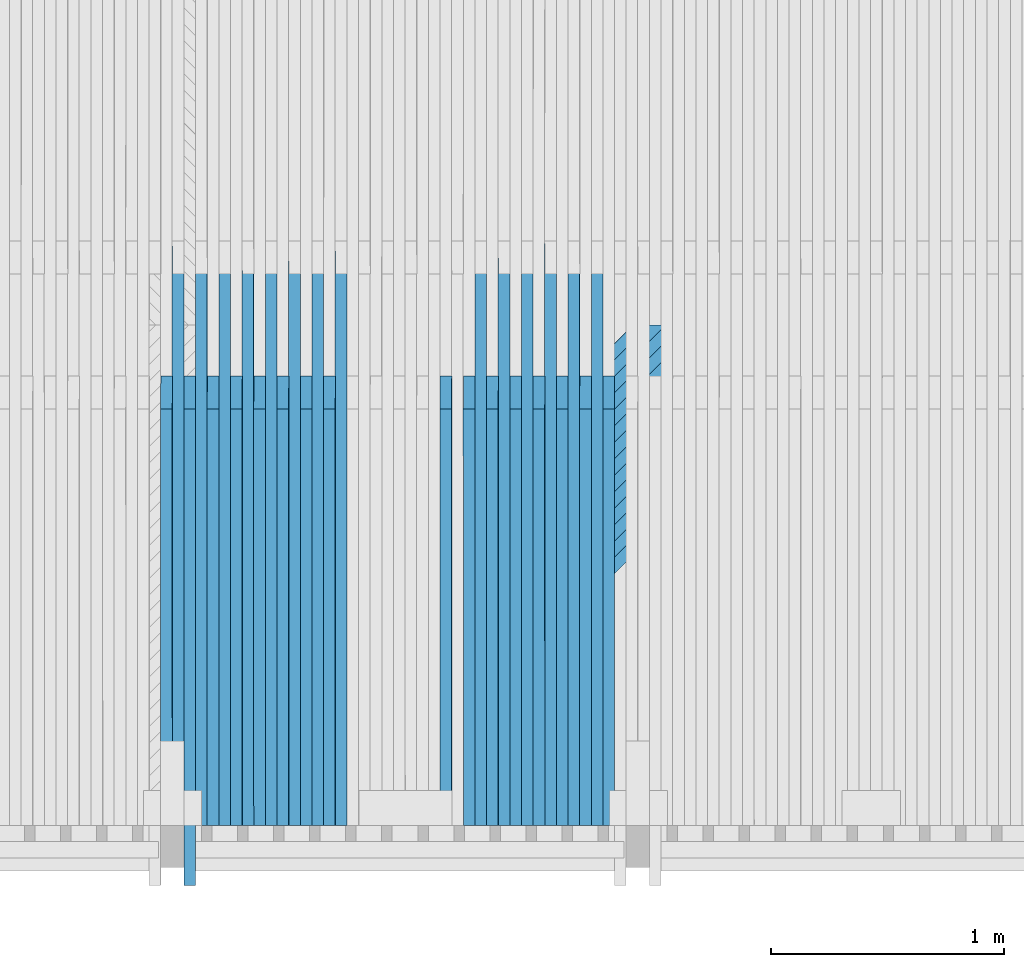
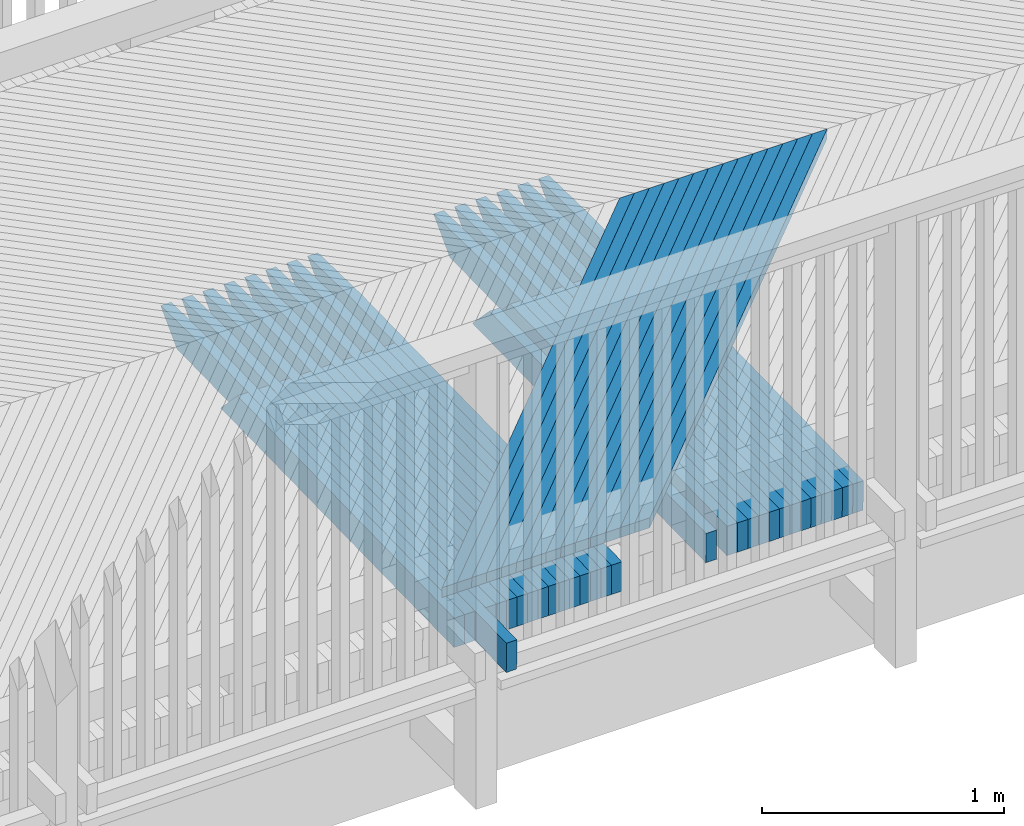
# One storey, part 22 of 52: 44 beams.
"""IFC2X3 building model written with IfcOpenShell, lengths in millimetres."""

from ifc_helpers import new_model, si_unit, frame, origin_with_axes, place, context, subcontext, project, spatial, faceted_brep, material, type_object, element, save


model = new_model("IFC2X3")

# Units and contexts
model_context = context("Model", 3, precision=1e-05, world=origin_with_axes())
body_context = subcontext(model_context, "Body", "Model", "MODEL_VIEW")
ifc_project = project(units=[si_unit("LENGTHUNIT", "METRE", prefix="MILLI"), si_unit("AREAUNIT", "SQUARE_METRE"), si_unit("VOLUMEUNIT", "CUBIC_METRE"), si_unit("MASSUNIT", "GRAM", prefix="KILO"), si_unit("TIMEUNIT", "SECOND"), si_unit("PLANEANGLEUNIT", "RADIAN"), si_unit("SOLIDANGLEUNIT", "STERADIAN"), si_unit("THERMODYNAMICTEMPERATUREUNIT", "DEGREE_CELSIUS"), si_unit("LUMINOUSINTENSITYUNIT", "LUMEN")], contexts=[model_context])

# Site, building, storey
site_placement = place(None, origin_with_axes())
site = spatial("IfcSite", under=ifc_project, at=site_placement, Name="Undefined", CompositionType="ELEMENT")
building_placement = place(site_placement, origin_with_axes())
building = spatial("IfcBuilding", under=site, at=building_placement, Name="Undefined", CompositionType="ELEMENT")
storey_placement = place(building_placement, origin_with_axes())
storey = spatial("IfcBuildingStorey", under=building, at=storey_placement, Name="Undefined", CompositionType="ELEMENT", Elevation=0.0)

# Beams
ifc_material = material(Name="TIMBER/Timber_Undefined")
beam_type_1 = type_object("IfcBeamType", Name="50*50", PredefinedType="NOTDEFINED")
for number, where, z_axis, x_axis, name in (
    (1, (6933.49514567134, 2364.50010032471, 3235.17752037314), (0.707136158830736, -0.706981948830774, -0.0116179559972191), (-0.707068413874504, -0.706948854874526, -0.016660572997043), "BEAM"),
    (2, (6862.77103065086, 2364.50010032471, 3235.04809435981), (0.707137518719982, -0.706981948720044, -0.0115348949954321), (-0.707066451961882, -0.706948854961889, -0.0167436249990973), "BEAM"),
    (3, (6792.04693132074, 2364.50010032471, 3234.91036104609), (0.707138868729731, -0.706981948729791, -0.0114518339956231), (-0.707064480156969, -0.706948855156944, -0.0168266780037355), "BEAM"),
    (4, (6721.32284865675, 2364.50010032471, 3234.76432043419), (0.707140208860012, -0.706981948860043, -0.0113687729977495), (-0.707062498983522, -0.706948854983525, -0.0169097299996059), "BEAM"),
    (5, (6650.59878363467, 2364.50010032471, 3234.60997252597), (0.707141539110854, -0.706981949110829, -0.0112857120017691), (-0.707060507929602, -0.706948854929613, -0.0169927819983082), "BEAM"),
    (6, (6579.8747372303, 2364.50010032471, 3234.44731732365), (0.707142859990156, -0.706981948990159, -0.0112026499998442), (-0.707058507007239, -0.706948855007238, -0.0170758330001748), "BEAM"),
    (7, (6509.1507104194, 2364.50010032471, 3234.27635482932), (0.707144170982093, -0.706981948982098, -0.0111195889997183), (-0.707056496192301, -0.706948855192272, -0.0171588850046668), "BEAM"),
    (8, (6438.42670417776, 2364.50010032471, 3234.09708504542), (0.707145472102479, -0.706981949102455, -0.0110365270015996), (-0.707054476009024, -0.706948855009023, -0.01724193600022), "BEAM"),
    (9, (6367.70271948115, 2364.50010032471, 3233.9095079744), (0.707146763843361, -0.706981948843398, -0.0109534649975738), (-0.707052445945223, -0.706948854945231, -0.0173249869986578), "BEAM"),
    (10, (6296.97875730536, 2364.50010032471, 3233.71362361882), (0.707148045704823, -0.706981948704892, -0.0108704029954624), (-0.707050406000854, -0.706948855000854, -0.0174080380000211), "BEAM"),
    (11, (6226.25481862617, 2364.50010032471, 3233.5094319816), (0.70714931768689, -0.706981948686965, -0.0107873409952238), (-0.707048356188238, -0.706948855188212, -0.0174910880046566), "BEAM"),
    (12, (6155.53090441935, 2364.50010032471, 3233.29693306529), (0.707150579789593, -0.706981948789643, -0.0107042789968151), (-0.707046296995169, -0.706948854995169, -0.01757413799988), "BEAM"),
    (13, (6084.80701566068, 2364.50010032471, 3233.07612687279), (0.707151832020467, -0.706981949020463, -0.0106212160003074), (-0.70704422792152, -0.706948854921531, -0.0176571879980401), "BEAM"),
    (14, (6014.08315332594, 2364.50010032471, 3232.84701340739), (0.707153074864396, -0.706981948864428, -0.010538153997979), (-0.707042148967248, -0.706948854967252, -0.0177402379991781), "BEAM"),
):
    element("IfcBeam", number, at=place(storey_placement, frame(where, z_axis=z_axis, x_axis=x_axis)), inside=storey, type_object=beam_type_1, material=ifc_material, Name=name, ObjectType="50*50", context=body_context, shape_type="Brep", body=[
        faceted_brep([(24.894245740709, 25.0, -25.0), (-25.0086637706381, 24.9999999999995, 24.9999999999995), (2804.3406783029, 25.0000000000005, 25.0000000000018), (2854.34301907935, 25.0, -24.9999999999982), (-26.4222658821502, -25.0, 24.9999999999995), (2802.92643296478, -25.0, 25.0000000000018), (23.4806436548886, -25.0, -25.0), (2852.92877373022, -25.0, -24.9999999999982)], [[[0, 1, 2, 3]], [[1, 4, 5, 2]], [[4, 6, 7, 5]], [[6, 0, 3, 7]], [[5, 7, 3, 2]], [[6, 4, 1, 0]]]),
    ])
beam_type_2 = type_object("IfcBeamType", Name="150*50", PredefinedType="NOTDEFINED")
for number, where, z_axis, x_axis, name in (
    (15, (5875.95475998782, 216.50460761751, 3089.40059139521), (-0.00361017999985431, -0.0199960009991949, 0.999793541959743), (-7.22040000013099e-05, 0.999800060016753, 0.019995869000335), "BEAM"),
    (16, (5775.93537890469, 216.50460761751, 3089.0393605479), (-0.00377630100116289, -0.0199960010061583, 0.999792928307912), (-7.55270000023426e-05, 0.999800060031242, 0.0199958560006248), "BEAM"),
):
    element("IfcBeam", number, at=place(storey_placement, frame(where, z_axis=z_axis, x_axis=x_axis)), inside=storey, type_object=beam_type_2, material=ifc_material, Name=name, ObjectType="150*50", context=body_context, shape_type="Brep", body=[
        faceted_brep([(-1.67788130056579e-07, -24.9999999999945, -74.9999999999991), (1.67786311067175e-07, -24.9999999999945, 75.0000000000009), (1.67786311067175e-07, 25.0000000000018, 75.0), (-1.67787220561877e-07, 25.0000000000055, -75.0), (1928.42646353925, -25.0, -75.0), (1789.96936433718, -25.0000000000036, 74.9999999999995), (1789.96936408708, 24.9999999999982, 75.0000000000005), (1928.42646328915, 24.9999999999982, -74.9999999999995)], [[[0, 1, 2, 3]], [[1, 0, 4, 5]], [[2, 1, 5, 6]], [[3, 2, 6, 7]], [[0, 3, 7, 4]], [[7, 6, 5, 4]]]),
    ])
beam_1_placement = place(storey_placement, frame((5825.95508575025, 216.504607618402, 3089.21997974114), z_axis=(-0.00361017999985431, -0.0199960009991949, 0.999793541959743), x_axis=(-7.22040000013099e-05, 0.999800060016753, 0.019995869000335)))
element("IfcBeam", 17, at=beam_1_placement, inside=storey, type_object=beam_type_2, material=ifc_material, Name="BEAM", ObjectType="150*50", context=body_context, shape_type="Brep", body=[
    faceted_brep([(-1.67788130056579e-07, -24.9999999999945, -74.9999999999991), (1.67786311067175e-07, -24.9999999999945, 75.0000000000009), (1.67786311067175e-07, 25.0000000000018, 75.0), (-1.67787220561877e-07, 25.0000000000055, -75.0), (2375.00494422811, 25.0000000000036, -74.9999999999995), (2375.0049444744, -24.9999999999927, -74.9999999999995), (2510.5924871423, -24.9999999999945, 60.5875430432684), (2150.42514405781, -24.9999999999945, 75.0000000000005), (2150.42515052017, 25.0000000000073, 75.0), (2510.59248715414, 25.0000000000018, 60.5875433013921)], [[[0, 1, 2, 3]], [[0, 3, 4, 5]], [[1, 0, 5, 6, 7]], [[2, 1, 7, 8]], [[4, 3, 2, 8, 9]], [[5, 4, 9, 6]], [[6, 9, 8, 7]]]),
])
beam_2_placement = place(storey_placement, frame((5675.91605922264, 216.50460761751, 3088.66151095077), z_axis=(-0.00394242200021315, -0.0199960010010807, 0.999792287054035), x_axis=(-7.88490000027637e-05, 0.999800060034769, 0.0199958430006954)))
element("IfcBeam", 18, at=beam_2_placement, inside=storey, type_object=beam_type_2, material=ifc_material, Name="BEAM", ObjectType="150*50", context=body_context, shape_type="Brep", body=[
    faceted_brep([(-1.67788130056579e-07, -24.9999999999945, -74.9999999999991), (1.67786311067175e-07, -24.9999999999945, 75.0000000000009), (1.67786311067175e-07, 25.0000000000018, 75.0), (-1.67787220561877e-07, 25.0000000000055, -75.0), (1928.42646353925, -25.0, -75.0), (1789.96936433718, -25.0000000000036, 74.9999999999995), (1789.96936408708, 24.9999999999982, 75.0000000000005), (1928.42646328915, 24.9999999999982, -74.9999999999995)], [[[0, 1, 2, 3]], [[1, 0, 4, 5]], [[2, 1, 5, 6]], [[3, 2, 6, 7]], [[0, 3, 7, 4]], [[7, 6, 5, 4]]]),
])
beam_3_placement = place(storey_placement, frame((5725.9357353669, 216.504607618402, 3088.8504411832), z_axis=(-0.00377630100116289, -0.0199960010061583, 0.999792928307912), x_axis=(-7.55270000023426e-05, 0.999800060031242, 0.0199958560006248)))
element("IfcBeam", 19, at=beam_3_placement, inside=storey, type_object=beam_type_2, material=ifc_material, Name="BEAM", ObjectType="150*50", context=body_context, shape_type="Brep", body=[
    faceted_brep([(-1.67788130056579e-07, -24.9999999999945, -74.9999999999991), (1.67786311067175e-07, -24.9999999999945, 75.0000000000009), (1.67786311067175e-07, 25.0000000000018, 75.0), (-1.67787220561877e-07, 25.0000000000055, -75.0), (2375.00494422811, 25.0000000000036, -74.9999999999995), (2375.0049444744, -24.9999999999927, -74.9999999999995), (2510.5924871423, -24.9999999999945, 60.5875430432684), (2150.42514405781, -24.9999999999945, 75.0000000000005), (2150.42515052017, 25.0000000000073, 75.0), (2510.59248715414, 25.0000000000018, 60.5875433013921)], [[[0, 1, 2, 3]], [[0, 3, 4, 5]], [[1, 0, 5, 6, 7]], [[2, 1, 7, 8]], [[4, 3, 2, 8, 9]], [[5, 4, 9, 6]], [[6, 9, 8, 7]]]),
])
beam_4_placement = place(storey_placement, frame((5575.89680370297, 216.50460761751, 3088.2670426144), z_axis=(-0.00410854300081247, -0.0199960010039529, 0.999791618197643), x_axis=(-8.21720000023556e-05, 0.99980006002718, 0.0199958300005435)))
element("IfcBeam", 20, at=beam_4_placement, inside=storey, type_object=beam_type_2, material=ifc_material, Name="BEAM", ObjectType="150*50", context=body_context, shape_type="Brep", body=[
    faceted_brep([(-1.67788130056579e-07, -24.9999999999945, -74.9999999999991), (1.67786311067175e-07, -24.9999999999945, 75.0000000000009), (1.67786311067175e-07, 25.0000000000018, 75.0), (-1.67787220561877e-07, 25.0000000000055, -75.0), (1928.42646353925, -25.0, -75.0), (1789.96936433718, -25.0000000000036, 74.9999999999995), (1789.96936408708, 24.9999999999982, 75.0000000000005), (1928.42646328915, 24.9999999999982, -74.9999999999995)], [[[0, 1, 2, 3]], [[1, 0, 4, 5]], [[2, 1, 5, 6]], [[3, 2, 6, 7]], [[0, 3, 7, 4]], [[7, 6, 5, 4]]]),
])
beam_5_placement = place(storey_placement, frame((5625.916447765, 216.504607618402, 3088.46428388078), z_axis=(-0.00394242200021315, -0.0199960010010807, 0.999792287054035), x_axis=(-7.88490000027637e-05, 0.999800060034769, 0.0199958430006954)))
element("IfcBeam", 21, at=beam_5_placement, inside=storey, type_object=beam_type_2, material=ifc_material, Name="BEAM", ObjectType="150*50", context=body_context, shape_type="Brep", body=[
    faceted_brep([(-1.67788130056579e-07, -24.9999999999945, -74.9999999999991), (1.67786311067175e-07, -24.9999999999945, 75.0000000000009), (1.67786311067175e-07, 25.0000000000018, 75.0), (-1.67787220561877e-07, 25.0000000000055, -75.0), (2375.00494422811, 25.0000000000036, -74.9999999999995), (2375.0049444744, -24.9999999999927, -74.9999999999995), (2510.5924871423, -24.9999999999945, 60.5875430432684), (2150.42514405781, -24.9999999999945, 75.0000000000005), (2150.42515052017, 25.0000000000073, 75.0), (2510.59248715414, 25.0000000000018, 60.5875433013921)], [[[0, 1, 2, 3]], [[0, 3, 4, 5]], [[1, 0, 5, 6, 7]], [[2, 1, 7, 8]], [[4, 3, 2, 8, 9]], [[5, 4, 9, 6]], [[6, 9, 8, 7]]]),
])
beam_6_placement = place(storey_placement, frame((5475.87761510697, 216.50460761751, 3087.85595554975), z_axis=(-0.00427466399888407, -0.0199960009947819, 0.999790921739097), x_axis=(-8.54940000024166e-05, 0.999800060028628, 0.0199958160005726)))
element("IfcBeam", 22, at=beam_6_placement, inside=storey, type_object=beam_type_2, material=ifc_material, Name="BEAM", ObjectType="150*50", context=body_context, shape_type="Brep", body=[
    faceted_brep([(-1.67788130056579e-07, -24.9999999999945, -74.9999999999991), (1.67786311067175e-07, -24.9999999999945, 75.0000000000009), (1.67786311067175e-07, 25.0000000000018, 75.0), (-1.67787220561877e-07, 25.0000000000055, -75.0), (1928.42646353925, -25.0, -75.0), (1789.96936433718, -25.0000000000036, 74.9999999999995), (1789.96936408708, 24.9999999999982, 75.0000000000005), (1928.42646328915, 24.9999999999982, -74.9999999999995)], [[[0, 1, 2, 3]], [[1, 0, 4, 5]], [[2, 1, 5, 6]], [[3, 2, 6, 7]], [[0, 3, 7, 4]], [[7, 6, 5, 4]]]),
])
beam_7_placement = place(storey_placement, frame((5525.89722570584, 216.504607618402, 3088.06150784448), z_axis=(-0.00410854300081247, -0.0199960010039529, 0.999791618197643), x_axis=(-8.21720000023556e-05, 0.99980006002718, 0.0199958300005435)))
element("IfcBeam", 23, at=beam_7_placement, inside=storey, type_object=beam_type_2, material=ifc_material, Name="BEAM", ObjectType="150*50", context=body_context, shape_type="Brep", body=[
    faceted_brep([(-1.67788130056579e-07, -24.9999999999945, -74.9999999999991), (1.67786311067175e-07, -24.9999999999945, 75.0000000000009), (1.67786311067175e-07, 25.0000000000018, 75.0), (-1.67787220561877e-07, 25.0000000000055, -75.0), (2375.00494422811, 25.0000000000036, -74.9999999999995), (2375.0049444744, -24.9999999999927, -74.9999999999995), (2510.5924871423, -24.9999999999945, 60.5875430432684), (2150.42514405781, -24.9999999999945, 75.0000000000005), (2150.42515052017, 25.0000000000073, 75.0), (2510.59248715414, 25.0000000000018, 60.5875433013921)], [[[0, 1, 2, 3]], [[0, 3, 4, 5]], [[1, 0, 5, 6, 7]], [[2, 1, 7, 8]], [[4, 3, 2, 8, 9]], [[5, 4, 9, 6]], [[6, 9, 8, 7]]]),
])
beam_8_placement = place(storey_placement, frame((5375.85849619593, 216.50460761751, 3087.42824976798), z_axis=(-0.0044407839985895, -0.0199960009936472, 0.999790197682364), x_axis=(-8.88170000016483e-05, 0.999800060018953, 0.0199958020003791)))
element("IfcBeam", 24, at=beam_8_placement, inside=storey, type_object=beam_type_2, material=ifc_material, Name="BEAM", ObjectType="150*50", context=body_context, shape_type="Brep", body=[
    faceted_brep([(-1.67788130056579e-07, -24.9999999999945, -74.9999999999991), (1.67786311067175e-07, -24.9999999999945, 75.0000000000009), (1.67786311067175e-07, 25.0000000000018, 75.0), (-1.67787220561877e-07, 25.0000000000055, -75.0), (1928.42646353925, -25.0, -75.0), (1789.96936433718, -25.0000000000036, 74.9999999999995), (1789.96936408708, 24.9999999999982, 75.0000000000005), (1928.42646328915, 24.9999999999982, -74.9999999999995)], [[[0, 1, 2, 3]], [[1, 0, 4, 5]], [[2, 1, 5, 6]], [[3, 2, 6, 7]], [[0, 3, 7, 4]], [[7, 6, 5, 4]]]),
])
beam_9_placement = place(storey_placement, frame((5425.87807195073, 216.504607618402, 3087.6421130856), z_axis=(-0.00427466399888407, -0.0199960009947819, 0.999790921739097), x_axis=(-8.54940000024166e-05, 0.999800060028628, 0.0199958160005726)))
element("IfcBeam", 25, at=beam_9_placement, inside=storey, type_object=beam_type_2, material=ifc_material, Name="BEAM", ObjectType="150*50", context=body_context, shape_type="Brep", body=[
    faceted_brep([(-1.67788130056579e-07, -24.9999999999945, -74.9999999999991), (1.67786311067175e-07, -24.9999999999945, 75.0000000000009), (1.67786311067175e-07, 25.0000000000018, 75.0), (-1.67787220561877e-07, 25.0000000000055, -75.0), (2375.00494422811, 25.0000000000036, -74.9999999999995), (2375.0049444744, -24.9999999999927, -74.9999999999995), (2510.5924871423, -24.9999999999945, 60.5875430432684), (2150.42514405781, -24.9999999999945, 75.0000000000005), (2150.42515052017, 25.0000000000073, 75.0), (2510.59248715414, 25.0000000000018, 60.5875433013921)], [[[0, 1, 2, 3]], [[0, 3, 4, 5]], [[1, 0, 5, 6, 7]], [[2, 1, 7, 8]], [[4, 3, 2, 8, 9]], [[5, 4, 9, 6]], [[6, 9, 8, 7]]]),
])
beam_10_placement = place(storey_placement, frame((5275.83944973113, 216.50460761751, 3086.98392528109), z_axis=(-0.00460690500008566, -0.0199960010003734, 0.999789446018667), x_axis=(-9.21390000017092e-05, 0.999800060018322, 0.0199957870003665)))
element("IfcBeam", 26, at=beam_10_placement, inside=storey, type_object=beam_type_2, material=ifc_material, Name="BEAM", ObjectType="150*50", context=body_context, shape_type="Brep", body=[
    faceted_brep([(-1.67788130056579e-07, -24.9999999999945, -74.9999999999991), (1.67786311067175e-07, -24.9999999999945, 75.0000000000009), (1.67786311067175e-07, 25.0000000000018, 75.0), (-1.67787220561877e-07, 25.0000000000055, -75.0), (1928.42646353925, -25.0, -75.0), (1789.96936433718, -25.0000000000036, 74.9999999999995), (1789.96936408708, 24.9999999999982, 75.0000000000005), (1928.42646328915, 24.9999999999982, -74.9999999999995)], [[[0, 1, 2, 3]], [[1, 0, 4, 5]], [[2, 1, 5, 6]], [[3, 2, 6, 7]], [[0, 3, 7, 4]], [[7, 6, 5, 4]]]),
])
beam_11_placement = place(storey_placement, frame((5325.85898926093, 216.504607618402, 3087.20609961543), z_axis=(-0.0044407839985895, -0.0199960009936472, 0.999790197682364), x_axis=(-8.88170000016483e-05, 0.999800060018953, 0.0199958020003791)))
element("IfcBeam", 27, at=beam_11_placement, inside=storey, type_object=beam_type_2, material=ifc_material, Name="BEAM", ObjectType="150*50", context=body_context, shape_type="Brep", body=[
    faceted_brep([(-1.67788130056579e-07, -24.9999999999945, -74.9999999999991), (1.67786311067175e-07, -24.9999999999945, 75.0000000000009), (1.67786311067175e-07, 25.0000000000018, 75.0), (-1.67787220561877e-07, 25.0000000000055, -75.0), (2375.00494422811, 25.0000000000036, -74.9999999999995), (2375.0049444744, -24.9999999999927, -74.9999999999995), (2510.5924871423, -24.9999999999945, 60.5875430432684), (2150.42514405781, -24.9999999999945, 75.0000000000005), (2150.42515052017, 25.0000000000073, 75.0), (2510.59248715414, 25.0000000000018, 60.5875433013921)], [[[0, 1, 2, 3]], [[0, 3, 4, 5]], [[1, 0, 5, 6, 7]], [[2, 1, 7, 8]], [[4, 3, 2, 8, 9]], [[5, 4, 9, 6]], [[6, 9, 8, 7]]]),
])
for number, where, z_axis, x_axis, name in (
    (28, (5175.82047847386, 216.50460761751, 3086.52298210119), (-0.00477302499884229, -0.0199960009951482, 0.999788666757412), (-9.54610000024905e-05, 0.999800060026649, 0.019995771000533), "BEAM"),
    (29, (4675.72684694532, 216.50460761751, 3083.96898626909), (-0.0056036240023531, -0.0199960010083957, 0.999784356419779), (-0.000112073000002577, 0.999800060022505, 0.0199956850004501), "BEAM"),
):
    element("IfcBeam", number, at=place(storey_placement, frame(where, z_axis=z_axis, x_axis=x_axis)), inside=storey, type_object=beam_type_2, material=ifc_material, Name=name, ObjectType="150*50", context=body_context, shape_type="Brep", body=[
        faceted_brep([(-1.67788130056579e-07, -24.9999999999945, -74.9999999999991), (1.67786311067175e-07, -24.9999999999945, 75.0000000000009), (1.67786311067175e-07, 25.0000000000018, 75.0), (-1.67787220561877e-07, 25.0000000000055, -75.0), (1928.42646353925, -25.0, -75.0), (1789.96936433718, -25.0000000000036, 74.9999999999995), (1789.96936408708, 24.9999999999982, 75.0000000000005), (1928.42646328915, 24.9999999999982, -74.9999999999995)], [[[0, 1, 2, 3]], [[1, 0, 4, 5]], [[2, 1, 5, 6]], [[3, 2, 6, 7]], [[0, 3, 7, 4]], [[7, 6, 5, 4]]]),
    ])
beam_12_placement = place(storey_placement, frame((4725.7461401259, 216.504607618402, 3084.24102656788), z_axis=(-0.00543750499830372, -0.0199960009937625, 0.999785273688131), x_axis=(-0.000108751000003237, 0.99980006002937, 0.0199957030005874)))
element("IfcBeam", 30, at=beam_12_placement, inside=storey, type_object=beam_type_2, material=ifc_material, Name="BEAM", ObjectType="150*50", context=body_context, shape_type="Brep", body=[
    faceted_brep([(-1.67788130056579e-07, -24.9999999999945, -74.9999999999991), (1.67786311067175e-07, -24.9999999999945, 75.0000000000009), (1.67786311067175e-07, 25.0000000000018, 75.0), (-1.67787220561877e-07, 25.0000000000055, -75.0), (2375.00494422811, 25.0000000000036, -74.9999999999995), (2375.0049444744, -24.9999999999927, -74.9999999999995), (2510.5924871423, -24.9999999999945, 60.5875430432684), (2150.42514405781, -24.9999999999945, 75.0000000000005), (2150.42515052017, 25.0000000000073, 75.0), (2510.59248715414, 25.0000000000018, 60.5875433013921)], [[[0, 1, 2, 3]], [[0, 3, 4, 5]], [[1, 0, 5, 6, 7]], [[2, 1, 7, 8]], [[4, 3, 2, 8, 9]], [[5, 4, 9, 6]], [[6, 9, 8, 7]]]),
])
beam_13_placement = place(storey_placement, frame((4575.70838492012, 216.50460761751, 3083.40833121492), z_axis=(-0.00576974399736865, -0.01999600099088, 0.999783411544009), x_axis=(-0.00011539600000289, 0.999800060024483, 0.0199956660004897)))
element("IfcBeam", 31, at=beam_13_placement, inside=storey, type_object=beam_type_2, material=ifc_material, Name="BEAM", ObjectType="150*50", context=body_context, shape_type="Brep", body=[
    faceted_brep([(-1.67788130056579e-07, -24.9999999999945, -74.9999999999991), (1.67786311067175e-07, -24.9999999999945, 75.0000000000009), (1.67786311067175e-07, 25.0000000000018, 75.0), (-1.67787220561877e-07, 25.0000000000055, -75.0), (1928.42646353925, -25.0, -75.0), (1789.96936433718, -25.0000000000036, 74.9999999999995), (1789.96936408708, 24.9999999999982, 75.0000000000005), (1928.42646328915, 24.9999999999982, -74.9999999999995)], [[[0, 1, 2, 3]], [[1, 0, 4, 5]], [[2, 1, 5, 6]], [[3, 2, 6, 7]], [[0, 3, 7, 4]], [[7, 6, 5, 4]]]),
])
beam_14_placement = place(storey_placement, frame((4625.72763220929, 216.504607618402, 3083.68868248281), z_axis=(-0.0056036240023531, -0.0199960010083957, 0.999784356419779), x_axis=(-0.000112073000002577, 0.999800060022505, 0.0199956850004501)))
element("IfcBeam", 32, at=beam_14_placement, inside=storey, type_object=beam_type_2, material=ifc_material, Name="BEAM", ObjectType="150*50", context=body_context, shape_type="Brep", body=[
    faceted_brep([(-1.67788130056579e-07, -24.9999999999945, -74.9999999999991), (1.67786311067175e-07, -24.9999999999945, 75.0000000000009), (1.67786311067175e-07, 25.0000000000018, 75.0), (-1.67787220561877e-07, 25.0000000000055, -75.0), (2375.00494422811, 25.0000000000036, -74.9999999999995), (2375.0049444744, -24.9999999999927, -74.9999999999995), (2510.5924871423, -24.9999999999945, 60.5875430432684), (2150.42514405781, -24.9999999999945, 75.0000000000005), (2150.42515052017, 25.0000000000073, 75.0), (2510.59248715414, 25.0000000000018, 60.5875433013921)], [[[0, 1, 2, 3]], [[0, 3, 4, 5]], [[1, 0, 5, 6, 7]], [[2, 1, 7, 8]], [[4, 3, 2, 8, 9]], [[5, 4, 9, 6]], [[6, 9, 8, 7]]]),
])
beam_15_placement = place(storey_placement, frame((4475.69001743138, 216.50460761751, 3082.83105756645), z_axis=(-0.00593586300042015, -0.0199960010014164, 0.999782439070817), x_axis=(-0.00011871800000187, 0.999800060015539, 0.0199956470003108)))
element("IfcBeam", 33, at=beam_15_placement, inside=storey, type_object=beam_type_2, material=ifc_material, Name="BEAM", ObjectType="150*50", context=body_context, shape_type="Brep", body=[
    faceted_brep([(-1.67788130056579e-07, -24.9999999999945, -74.9999999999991), (1.67786311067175e-07, -24.9999999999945, 75.0000000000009), (1.67786311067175e-07, 25.0000000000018, 75.0), (-1.67787220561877e-07, 25.0000000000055, -75.0), (1928.42646353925, -25.0, -75.0), (1789.96936433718, -25.0000000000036, 74.9999999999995), (1789.96936408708, 24.9999999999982, 75.0000000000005), (1928.42646328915, 24.9999999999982, -74.9999999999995)], [[[0, 1, 2, 3]], [[1, 0, 4, 5]], [[2, 1, 5, 6]], [[3, 2, 6, 7]], [[0, 3, 7, 4]], [[7, 6, 5, 4]]]),
])
beam_16_placement = place(storey_placement, frame((4525.70921744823, 216.504607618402, 3083.11971979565), z_axis=(-0.00576974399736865, -0.01999600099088, 0.999783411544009), x_axis=(-0.00011539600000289, 0.999800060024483, 0.0199956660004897)))
element("IfcBeam", 34, at=beam_16_placement, inside=storey, type_object=beam_type_2, material=ifc_material, Name="BEAM", ObjectType="150*50", context=body_context, shape_type="Brep", body=[
    faceted_brep([(-1.67788130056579e-07, -24.9999999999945, -74.9999999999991), (1.67786311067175e-07, -24.9999999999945, 75.0000000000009), (1.67786311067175e-07, 25.0000000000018, 75.0), (-1.67787220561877e-07, 25.0000000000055, -75.0), (2375.00494422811, 25.0000000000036, -74.9999999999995), (2375.0049444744, -24.9999999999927, -74.9999999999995), (2510.5924871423, -24.9999999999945, 60.5875430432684), (2150.42514405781, -24.9999999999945, 75.0000000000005), (2150.42515052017, 25.0000000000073, 75.0), (2510.59248715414, 25.0000000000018, 60.5875433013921)], [[[0, 1, 2, 3]], [[0, 3, 4, 5]], [[1, 0, 5, 6, 7]], [[2, 1, 7, 8]], [[4, 3, 2, 8, 9]], [[5, 4, 9, 6]], [[6, 9, 8, 7]]]),
])
beam_17_placement = place(storey_placement, frame((4375.67174724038, 216.50460761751, 3082.23716533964), z_axis=(-0.00610198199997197, -0.0199960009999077, 0.999781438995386), x_axis=(-0.000122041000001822, 0.999800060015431, 0.0199956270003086)))
element("IfcBeam", 35, at=beam_17_placement, inside=storey, type_object=beam_type_2, material=ifc_material, Name="BEAM", ObjectType="150*50", context=body_context, shape_type="Brep", body=[
    faceted_brep([(-1.67788130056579e-07, -24.9999999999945, -74.9999999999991), (1.67786311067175e-07, -24.9999999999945, 75.0000000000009), (1.67786311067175e-07, 25.0000000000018, 75.0), (-1.67787220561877e-07, 25.0000000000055, -75.0), (1928.42646353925, -25.0, -75.0), (1789.96936433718, -25.0000000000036, 74.9999999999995), (1789.96936408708, 24.9999999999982, 75.0000000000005), (1928.42646328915, 24.9999999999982, -74.9999999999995)], [[[0, 1, 2, 3]], [[1, 0, 4, 5]], [[2, 1, 5, 6]], [[3, 2, 6, 7]], [[0, 3, 7, 4]], [[7, 6, 5, 4]]]),
])
beam_18_placement = place(storey_placement, frame((4425.690898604, 216.504607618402, 3082.53413852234), z_axis=(-0.00593586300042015, -0.0199960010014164, 0.999782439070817), x_axis=(-0.00011871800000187, 0.999800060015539, 0.0199956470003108)))
element("IfcBeam", 36, at=beam_18_placement, inside=storey, type_object=beam_type_2, material=ifc_material, Name="BEAM", ObjectType="150*50", context=body_context, shape_type="Brep", body=[
    faceted_brep([(-1.67788130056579e-07, -24.9999999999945, -74.9999999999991), (1.67786311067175e-07, -24.9999999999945, 75.0000000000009), (1.67786311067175e-07, 25.0000000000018, 75.0), (-1.67787220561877e-07, 25.0000000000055, -75.0), (2375.00494422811, 25.0000000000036, -74.9999999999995), (2375.0049444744, -24.9999999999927, -74.9999999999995), (2510.5924871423, -24.9999999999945, 60.5875430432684), (2150.42514405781, -24.9999999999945, 75.0000000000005), (2150.42515052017, 25.0000000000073, 75.0), (2510.59248715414, 25.0000000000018, 60.5875433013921)], [[[0, 1, 2, 3]], [[0, 3, 4, 5]], [[1, 0, 5, 6, 7]], [[2, 1, 7, 8]], [[4, 3, 2, 8, 9]], [[5, 4, 9, 6]], [[6, 9, 8, 7]]]),
])
beam_19_placement = place(storey_placement, frame((4275.65357710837, 216.50460761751, 3081.62665455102), z_axis=(-0.00626810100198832, -0.0199960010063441, 0.999780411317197), x_axis=(-0.000125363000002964, 0.999800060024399, 0.0199956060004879)))
element("IfcBeam", 37, at=beam_19_placement, inside=storey, type_object=beam_type_2, material=ifc_material, Name="BEAM", ObjectType="150*50", context=body_context, shape_type="Brep", body=[
    faceted_brep([(-1.67788130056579e-07, -24.9999999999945, -74.9999999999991), (1.67786311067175e-07, -24.9999999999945, 75.0000000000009), (1.67786311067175e-07, 25.0000000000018, 75.0), (-1.67787220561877e-07, 25.0000000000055, -75.0), (1928.42646353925, -25.0, -75.0), (1789.96936433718, -25.0000000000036, 74.9999999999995), (1789.96936408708, 24.9999999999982, 75.0000000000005), (1928.42646328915, 24.9999999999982, -74.9999999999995)], [[[0, 1, 2, 3]], [[1, 0, 4, 5]], [[2, 1, 5, 6]], [[3, 2, 6, 7]], [[0, 3, 7, 4]], [[7, 6, 5, 4]]]),
])
beam_20_placement = place(storey_placement, frame((4325.67267843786, 216.504607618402, 3081.93193867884), z_axis=(-0.00610198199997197, -0.0199960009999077, 0.999781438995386), x_axis=(-0.000122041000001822, 0.999800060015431, 0.0199956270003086)))
element("IfcBeam", 38, at=beam_20_placement, inside=storey, type_object=beam_type_2, material=ifc_material, Name="BEAM", ObjectType="150*50", context=body_context, shape_type="Brep", body=[
    faceted_brep([(-1.67788130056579e-07, -24.9999999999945, -74.9999999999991), (1.67786311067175e-07, -24.9999999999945, 75.0000000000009), (1.67786311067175e-07, 25.0000000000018, 75.0), (-1.67787220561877e-07, 25.0000000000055, -75.0), (2375.00494422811, 25.0000000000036, -74.9999999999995), (2375.0049444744, -24.9999999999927, -74.9999999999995), (2510.5924871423, -24.9999999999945, 60.5875430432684), (2150.42514405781, -24.9999999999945, 75.0000000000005), (2150.42515052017, 25.0000000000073, 75.0), (2510.59248715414, 25.0000000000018, 60.5875433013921)], [[[0, 1, 2, 3]], [[0, 3, 4, 5]], [[1, 0, 5, 6, 7]], [[2, 1, 7, 8]], [[4, 3, 2, 8, 9]], [[5, 4, 9, 6]], [[6, 9, 8, 7]]]),
])
beam_21_placement = place(storey_placement, frame((4175.63550979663, 216.50460761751, 3080.99952521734), z_axis=(-0.00643422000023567, -0.0199960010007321, 0.999779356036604), x_axis=(-0.000128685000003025, 0.999800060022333, 0.0199955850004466)))
element("IfcBeam", 39, at=beam_21_placement, inside=storey, type_object=beam_type_2, material=ifc_material, Name="BEAM", ObjectType="150*50", context=body_context, shape_type="Brep", body=[
    faceted_brep([(-1.67788130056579e-07, -24.9999999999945, -74.9999999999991), (1.67786311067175e-07, -24.9999999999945, 75.0000000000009), (1.67786311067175e-07, 25.0000000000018, 75.0), (-1.67787220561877e-07, 25.0000000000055, -75.0), (1928.42646353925, -25.0, -75.0), (1789.96936433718, -25.0000000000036, 74.9999999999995), (1789.96936408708, 24.9999999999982, 75.0000000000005), (1928.42646328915, 24.9999999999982, -74.9999999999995)], [[[0, 1, 2, 3]], [[1, 0, 4, 5]], [[2, 1, 5, 6]], [[3, 2, 6, 7]], [[0, 3, 7, 4]], [[7, 6, 5, 4]]]),
])
for number, where, z_axis, x_axis, name in (
    (40, (4225.65455971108, 216.504607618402, 3081.31312028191), (-0.00626810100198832, -0.0199960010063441, 0.999780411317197), (-0.000125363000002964, 0.999800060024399, 0.0199956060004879), "BEAM"),
    (41, (4125.63654518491, 216.504607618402, 3080.67768334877), (-0.00643422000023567, -0.0199960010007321, 0.999779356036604), (-0.000128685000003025, 0.999800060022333, 0.0199955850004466), "BEAM"),
):
    element("IfcBeam", number, at=place(storey_placement, frame(where, z_axis=z_axis, x_axis=x_axis)), inside=storey, type_object=beam_type_2, material=ifc_material, Name=name, ObjectType="150*50", context=body_context, shape_type="Brep", body=[
        faceted_brep([(-1.67788130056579e-07, -24.9999999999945, -74.9999999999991), (1.67786311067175e-07, -24.9999999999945, 75.0000000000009), (1.67786311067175e-07, 25.0000000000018, 75.0), (-1.67787220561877e-07, 25.0000000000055, -75.0), (2375.00494422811, 25.0000000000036, -74.9999999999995), (2375.0049444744, -24.9999999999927, -74.9999999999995), (2510.5924871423, -24.9999999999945, 60.5875430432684), (2150.42514405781, -24.9999999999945, 75.0000000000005), (2150.42515052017, 25.0000000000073, 75.0), (2510.59248715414, 25.0000000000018, 60.5875433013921)], [[[0, 1, 2, 3]], [[0, 3, 4, 5]], [[1, 0, 5, 6, 7]], [[2, 1, 7, 8]], [[4, 3, 2, 8, 9]], [[5, 4, 9, 6]], [[6, 9, 8, 7]]]),
    ])
beam_22_placement = place(storey_placement, frame((3975.59969467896, 216.50460761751, 3079.69541098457), z_axis=(-0.0067664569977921, -0.0199960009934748, 0.999777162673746), x_axis=(-0.000135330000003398, 0.999800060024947, 0.019995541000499)))
element("IfcBeam", 42, at=beam_22_placement, inside=storey, type_object=beam_type_2, material=ifc_material, Name="BEAM", ObjectType="150*50", context=body_context, shape_type="Brep", body=[
    faceted_brep([(-1.67788130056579e-07, -24.9999999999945, -74.9999999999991), (1.67786311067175e-07, -24.9999999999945, 75.0000000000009), (1.67786311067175e-07, 25.0000000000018, 75.0), (-1.67787220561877e-07, 25.0000000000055, -75.0), (1928.42646353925, -25.0, -75.0), (1789.96936433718, -25.0000000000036, 74.9999999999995), (1789.96936408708, 24.9999999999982, 75.0000000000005), (1928.42646328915, 24.9999999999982, -74.9999999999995)], [[[0, 1, 2, 3]], [[1, 0, 4, 5]], [[2, 1, 5, 6]], [[3, 2, 6, 7]], [[0, 3, 7, 4]], [[7, 6, 5, 4]]]),
])
beam_23_placement = place(storey_placement, frame((4025.61863762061, 216.504607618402, 3080.02562789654), z_axis=(-0.00660033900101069, -0.0199960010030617, 0.999778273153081), x_axis=(-0.000132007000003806, 0.999800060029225, 0.0199955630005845)))
element("IfcBeam", 43, at=beam_23_placement, inside=storey, type_object=beam_type_2, material=ifc_material, Name="BEAM", ObjectType="150*50", context=body_context, shape_type="Brep", body=[
    faceted_brep([(-1.67788130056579e-07, -24.9999999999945, -74.9999999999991), (1.67786311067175e-07, -24.9999999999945, 75.0000000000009), (1.67786311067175e-07, 25.0000000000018, 75.0), (-1.67787220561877e-07, 25.0000000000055, -75.0), (2375.00494422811, 25.0000000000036, -74.9999999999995), (2375.0049444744, -24.9999999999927, -74.9999999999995), (2510.5924871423, -24.9999999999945, 60.5875430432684), (2150.42514405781, -24.9999999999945, 75.0000000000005), (2150.42515052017, 25.0000000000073, 75.0), (2510.59248715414, 25.0000000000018, 60.5875433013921)], [[[0, 1, 2, 3]], [[0, 3, 4, 5]], [[1, 0, 5, 6, 7]], [[2, 1, 7, 8]], [[4, 3, 2, 8, 9]], [[5, 4, 9, 6]], [[6, 9, 8, 7]]]),
])
beam_24_placement = place(storey_placement, frame((4075.4423432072, -41.4438078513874, 3075.19549155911), z_axis=(-0.00660033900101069, -0.0199960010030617, 0.999778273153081), x_axis=(-0.000132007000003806, 0.999800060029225, 0.0199955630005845)))
element("IfcBeam", 44, at=beam_24_placement, inside=storey, type_object=beam_type_2, material=ifc_material, Name="BEAM", ObjectType="150*50", context=body_context, shape_type="Brep", body=[
    faceted_brep([(-1.67788130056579e-07, -24.9999999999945, -74.9999999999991), (1.67786311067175e-07, -24.9999999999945, 75.0000000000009), (1.67786311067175e-07, 25.0000000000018, 75.0), (-1.67787220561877e-07, 25.0000000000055, -75.0), (2186.42645144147, -25.0, -75.0), (2047.96935255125, -25.0, 75.0), (2047.9693678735, 25.0, 75.0), (2186.42646676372, 24.9999999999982, -75.0)], [[[0, 1, 2, 3]], [[1, 0, 4, 5]], [[2, 1, 5, 6]], [[3, 2, 6, 7]], [[0, 3, 7, 4]], [[7, 6, 5, 4]]]),
])

save(model, "model.ifc")
